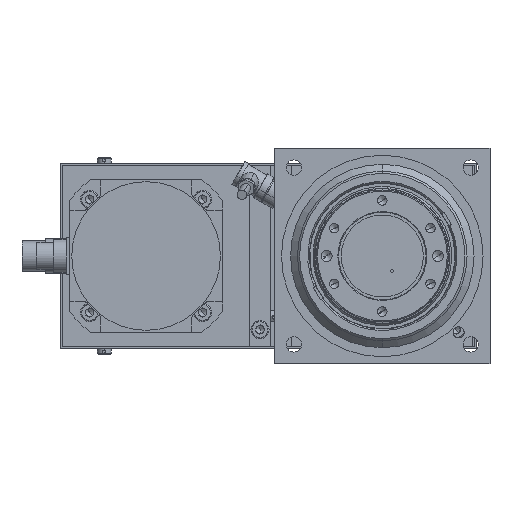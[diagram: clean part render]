
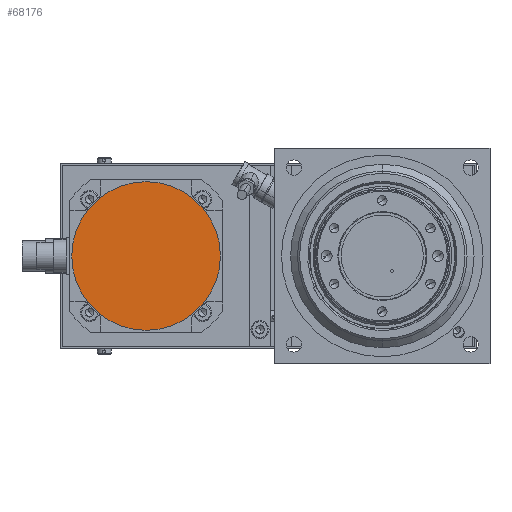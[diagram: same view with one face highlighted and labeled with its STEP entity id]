
A CAD part, front view. The second image highlights one B-rep face of the part: STEP entity #68176.
In plain terms, the highlighted planar face has unit normal (0, -1, 0).
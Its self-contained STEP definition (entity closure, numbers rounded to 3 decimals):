
#2139 = EDGE_LOOP ( 'NONE', ( #24372, #65604 ) ) ;
#7710 = CARTESIAN_POINT ( 'NONE',  ( -98.751, 69.121, 97.194 ) ) ;
#13672 = DIRECTION ( 'NONE',  ( -1., 0., 0. ) ) ;
#19364 = CARTESIAN_POINT ( 'NONE',  ( -43.751, 69.121, 152.194 ) ) ;
#24372 = ORIENTED_EDGE ( 'NONE', *, *, #35394, .T. ) ;
#24800 = PLANE ( 'NONE',  #66659 ) ;
#25279 = CARTESIAN_POINT ( 'NONE',  ( -152.251, 69.121, 97.194 ) ) ;
#25309 = DIRECTION ( 'NONE',  ( 1., 0., 0. ) ) ;
#29882 = CARTESIAN_POINT ( 'NONE',  ( -98.751, 69.121, 97.194 ) ) ;
#32595 = VERTEX_POINT ( 'NONE', #25279 ) ;
#35394 = EDGE_CURVE ( 'NONE', #32595, #53339, #51465, .T. ) ;
#35764 = DIRECTION ( 'NONE',  ( -1., 0., 0. ) ) ;
#38251 = AXIS2_PLACEMENT_3D ( 'NONE', #7710, #49018, #13672 ) ;
#42665 = FACE_OUTER_BOUND ( 'NONE', #2139, .T. ) ;
#43889 = EDGE_CURVE ( 'NONE', #53339, #32595, #51939, .T. ) ;
#49018 = DIRECTION ( 'NONE',  ( 0., -1., 0. ) ) ;
#51465 = CIRCLE ( 'NONE', #72927, 53.5 ) ;
#51939 = CIRCLE ( 'NONE', #38251, 53.5 ) ;
#53339 = VERTEX_POINT ( 'NONE', #68152 ) ;
#60594 = DIRECTION ( 'NONE',  ( 0., 1., 0. ) ) ;
#65604 = ORIENTED_EDGE ( 'NONE', *, *, #43889, .T. ) ;
#66659 = AXIS2_PLACEMENT_3D ( 'NONE', #19364, #60594, #25309 ) ;
#68152 = CARTESIAN_POINT ( 'NONE',  ( -45.251, 69.121, 97.194 ) ) ;
#68176 = ADVANCED_FACE ( 'NONE', ( #42665 ), #24800, .F. ) ;
#71116 = DIRECTION ( 'NONE',  ( 0., -1., 0. ) ) ;
#72927 = AXIS2_PLACEMENT_3D ( 'NONE', #29882, #71116, #35764 ) ;
